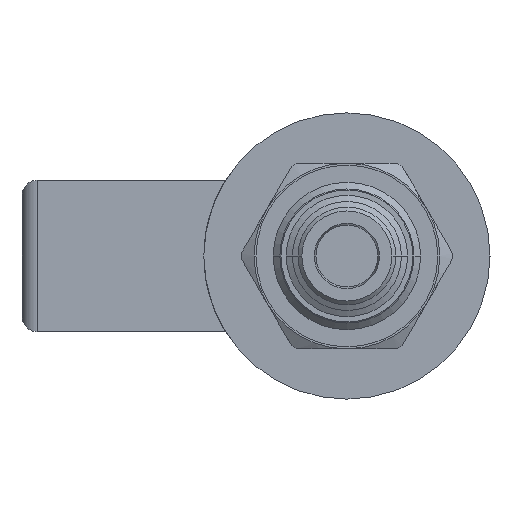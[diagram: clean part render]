
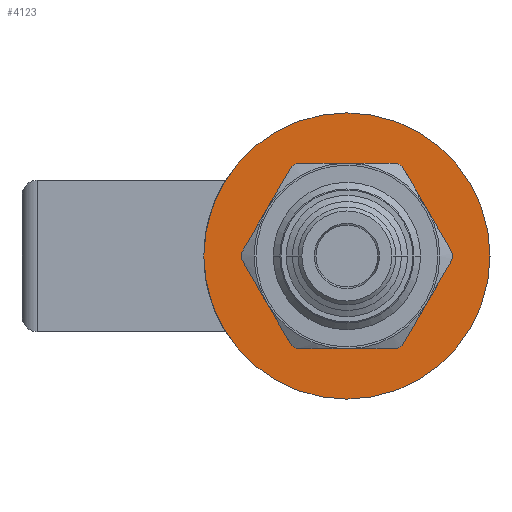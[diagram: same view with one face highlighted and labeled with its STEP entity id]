
A CAD part, left-side view. The second image highlights one B-rep face of the part: STEP entity #4123.
In plain terms, the highlighted planar face has unit normal (-1, 0, 0).
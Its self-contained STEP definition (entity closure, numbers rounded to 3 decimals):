
#1565=CARTESIAN_POINT('',(10.,-10.392,-6.));
#1617=CARTESIAN_POINT('',(10.,0.,0.));
#1618=DIRECTION('',(1.,0.,0.));
#1619=DIRECTION('',(0.,1.,0.));
#1620=AXIS2_PLACEMENT_3D('',#1617,#1618,#1619);
#1622=CARTESIAN_POINT('',(10.,0.,0.));
#1623=DIRECTION('',(1.,0.,0.));
#1624=DIRECTION('',(0.,-1.,0.));
#1625=AXIS2_PLACEMENT_3D('',#1622,#1623,#1624);
#1627=CARTESIAN_POINT('',(10.,0.,0.));
#1628=DIRECTION('',(-1.,0.,0.));
#1629=DIRECTION('',(0.,0.866,0.5));
#1630=AXIS2_PLACEMENT_3D('',#1627,#1628,#1629);
#1632=CARTESIAN_POINT('',(10.,0.,0.));
#1633=DIRECTION('',(-1.,0.,0.));
#1634=DIRECTION('',(0.,1.,0.));
#1635=AXIS2_PLACEMENT_3D('',#1632,#1633,#1634);
#1637=CARTESIAN_POINT('',(10.,0.,0.));
#1638=DIRECTION('',(-1.,0.,0.));
#1639=DIRECTION('',(0.,0.866,-0.5));
#1640=AXIS2_PLACEMENT_3D('',#1637,#1638,#1639);
#1642=CARTESIAN_POINT('',(10.,0.,0.));
#1643=DIRECTION('',(-1.,0.,0.));
#1644=DIRECTION('',(0.,0.,-1.));
#1645=AXIS2_PLACEMENT_3D('',#1642,#1643,#1644);
#1647=CARTESIAN_POINT('',(10.,0.,0.));
#1648=DIRECTION('',(-1.,0.,0.));
#1649=DIRECTION('',(0.,-0.866,-0.5));
#1650=AXIS2_PLACEMENT_3D('',#1647,#1648,#1649);
#1652=CARTESIAN_POINT('',(10.,0.,0.));
#1653=DIRECTION('',(-1.,0.,0.));
#1654=DIRECTION('',(0.,-1.,0.));
#1655=AXIS2_PLACEMENT_3D('',#1652,#1653,#1654);
#1657=CARTESIAN_POINT('',(10.,0.,0.));
#1658=DIRECTION('',(-1.,0.,0.));
#1659=DIRECTION('',(0.,-0.866,0.5));
#1660=AXIS2_PLACEMENT_3D('',#1657,#1658,#1659);
#1662=CARTESIAN_POINT('',(10.,0.,0.));
#1663=DIRECTION('',(-1.,0.,0.));
#1664=DIRECTION('',(0.,0.,1.));
#1665=AXIS2_PLACEMENT_3D('',#1662,#1663,#1664);
#1967=CARTESIAN_POINT('',(10.,10.392,6.));
#1969=CARTESIAN_POINT('',(10.,0.,12.));
#2337=VERTEX_POINT('',#1969);
#2340=CARTESIAN_POINT('',(10.,-10.392,6.));
#2341=VERTEX_POINT('',#2340);
#2344=VERTEX_POINT('',#1967);
#2346=VERTEX_POINT('',#1565);
#2347=CARTESIAN_POINT('',(10.,0.,-12.));
#2348=VERTEX_POINT('',#2347);
#2351=CARTESIAN_POINT('',(10.,10.392,-6.));
#2352=VERTEX_POINT('',#2351);
#2354=CARTESIAN_POINT('',(10.,12.,0.));
#2355=VERTEX_POINT('',#2354);
#2361=CARTESIAN_POINT('',(10.,18.5,0.));
#2362=CARTESIAN_POINT('',(10.,-18.5,0.));
#2363=VERTEX_POINT('',#2361);
#2364=VERTEX_POINT('',#2362);
#2365=CARTESIAN_POINT('',(10.,-12.,0.));
#2366=VERTEX_POINT('',#2365);
#4098=CARTESIAN_POINT('',(10.,0.,0.));
#4099=DIRECTION('',(1.,0.,0.));
#4100=DIRECTION('',(0.,-1.,0.));
#4101=AXIS2_PLACEMENT_3D('',#4098,#4099,#4100);
#4102=PLANE('',#4101);
#4104=ORIENTED_EDGE('',*,*,#4103,.T.);
#4106=ORIENTED_EDGE('',*,*,#4105,.T.);
#4107=EDGE_LOOP('',(#4104,#4106));
#4108=FACE_OUTER_BOUND('',#4107,.F.);
#4110=ORIENTED_EDGE('',*,*,#4109,.T.);
#4112=ORIENTED_EDGE('',*,*,#4111,.T.);
#4113=ORIENTED_EDGE('',*,*,#4018,.T.);
#4114=ORIENTED_EDGE('',*,*,#4052,.T.);
#4115=ORIENTED_EDGE('',*,*,#4086,.T.);
#4116=ORIENTED_EDGE('',*,*,#4084,.T.);
#4118=ORIENTED_EDGE('',*,*,#4117,.T.);
#4120=ORIENTED_EDGE('',*,*,#4119,.T.);
#4121=EDGE_LOOP('',(#4110,#4112,#4113,#4114,#4115,#4116,#4118,#4120));
#4122=FACE_BOUND('',#4121,.F.);
#1621=CIRCLE('',#1620,18.5);
#1626=CIRCLE('',#1625,18.5);
#1631=CIRCLE('',#1630,12.);
#1636=CIRCLE('',#1635,12.);
#1641=CIRCLE('',#1640,12.);
#1646=CIRCLE('',#1645,12.);
#1651=CIRCLE('',#1650,12.);
#1656=CIRCLE('',#1655,12.);
#1661=CIRCLE('',#1660,12.);
#1666=CIRCLE('',#1665,12.);
#4018=EDGE_CURVE('',#2352,#2348,#1641,.T.);
#4052=EDGE_CURVE('',#2348,#2346,#1646,.T.);
#4084=EDGE_CURVE('',#2366,#2341,#1656,.T.);
#4086=EDGE_CURVE('',#2346,#2366,#1651,.T.);
#4103=EDGE_CURVE('',#2363,#2364,#1621,.T.);
#4105=EDGE_CURVE('',#2364,#2363,#1626,.T.);
#4109=EDGE_CURVE('',#2344,#2355,#1631,.T.);
#4111=EDGE_CURVE('',#2355,#2352,#1636,.T.);
#4117=EDGE_CURVE('',#2341,#2337,#1661,.T.);
#4119=EDGE_CURVE('',#2337,#2344,#1666,.T.);
#4123=ADVANCED_FACE('',(#4108,#4122),#4102,.F.);
